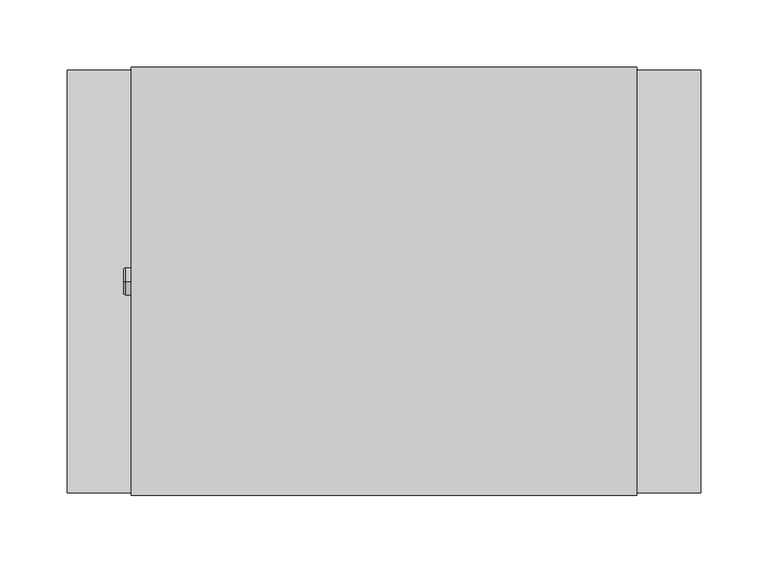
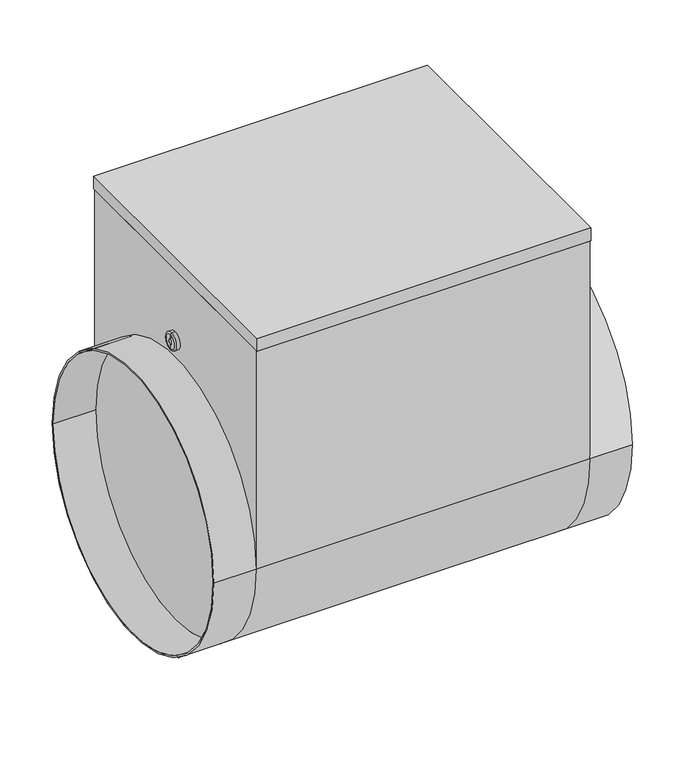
"""IFC4 building model written with IfcOpenShell, lengths in millimetres: proxy geometry, СВ_ВоздухонагревательЭлектрический_КанальныйКруглый_DN100-315_SKH-E : SKH-E-315/12."""

from ifc_helpers import new_model, si_unit, point, frame, origin, place, context, project, spatial, polyline, circle_curve, ellipse_curve, trimmed, outline, extrude, source, transform, mapped, element, save
from ifc_brep_helpers import plane_surface, cylinder_surface, revolved_surface, advanced_brep


def mechanical_equipment_5b81973e(model_context):
    return source(origin(), model_context, "Body", "SolidModel", [
        extrude(outline(polyline([(187.5, -159.0), (-187.5, -159.0), (-187.5, 159.0), (187.5, 159.0), (187.5, -159.0)])), frame((0.0, 0.0, 260.0), z_axis=(0.0, 0.0, 1.0), x_axis=(1.0, 0.0, 0.0)), (0.0, 0.0, 1.0), 15.0),
        advanced_brep(
        [(-235.0, -157.0, 0.0), (-235.0, 157.0, 0.0), (-235.0, -155.0, 0.0), (-235.0, 155.0, 0.0), (-187.5, 155.0, 0.0), (-187.5, -155.0, 0.0), (-187.5, 157.0, 0.0), (-187.5, -157.0, 0.0), (187.5, -155.0, 0.0), (187.5, 155.0, 0.0), (187.5, -157.0, 260.0), (187.5, -157.0, 0.0), (187.5, 157.0, 0.0), (187.5, 157.0, 260.0), (-187.5, -157.0, 260.0), (-187.5, 157.0, 260.0), (235.0, -157.0, 0.0), (235.0, 157.0, 0.0), (235.0, -155.0, 0.0), (235.0, 155.0, 0.0)],
        [
            (0, 1, circle_curve(frame((-235.0, 0.0, 0.0), z_axis=(-1.0, 0.0, 0.0), x_axis=(0.0, 1.0, 0.0)), 157.0)),
            (1, 0, circle_curve(frame((-235.0, 0.0, 0.0), z_axis=(-1.0, 0.0, 0.0), x_axis=(0.0, 1.0, 0.0)), 157.0)),
            (2, 3, circle_curve(frame((-235.0, 0.0, 0.0), z_axis=(1.0, 0.0, 0.0), x_axis=(0.0, 1.0, 0.0)), 155.0)),
            (3, 2, circle_curve(frame((-235.0, 0.0, 0.0), z_axis=(1.0, 0.0, 0.0), x_axis=(0.0, 1.0, 0.0)), 155.0)),
            (3, 4),
            (4, 5, circle_curve(frame((-187.5, 0.0, 0.0), z_axis=(1.0, 0.0, 0.0), x_axis=(0.0, 1.0, 0.0)), 155.0)),
            (5, 2),
            (5, 4, circle_curve(frame((-187.5, 0.0, 0.0), z_axis=(1.0, 0.0, 0.0), x_axis=(0.0, 1.0, 0.0)), 155.0)),
            (1, 6),
            (6, 7, circle_curve(frame((-187.5, 0.0, 0.0), z_axis=(-1.0, 0.0, 0.0), x_axis=(0.0, 1.0, 0.0)), 157.0)),
            (7, 0),
            (7, 6, circle_curve(frame((-187.5, 0.0, 0.0), z_axis=(-1.0, 0.0, 0.0), x_axis=(0.0, 1.0, 0.0)), 157.0)),
            (8, 9, circle_curve(frame((187.5, 0.0, 0.0), z_axis=(1.0, 0.0, 0.0), x_axis=(0.0, 1.0, 0.0)), 155.0)),
            (9, 8, circle_curve(frame((187.5, 0.0, 0.0), z_axis=(1.0, 0.0, 0.0), x_axis=(0.0, 1.0, 0.0)), 155.0)),
            (10, 11),
            (11, 12, circle_curve(frame((187.5, 0.0, 0.0), z_axis=(-1.0, 0.0, 0.0), x_axis=(0.0, 1.0, 0.0)), 157.0)),
            (12, 13),
            (13, 10),
            (7, 14),
            (14, 15),
            (15, 6),
            (6, 12),
            (12, 11, circle_curve(frame((187.5, 0.0, 0.0), z_axis=(-1.0, 0.0, 0.0), x_axis=(0.0, 1.0, 0.0)), 157.0)),
            (11, 7),
            (16, 17, circle_curve(frame((235.0, 0.0, 0.0), z_axis=(1.0, 0.0, 0.0), x_axis=(0.0, 1.0, 0.0)), 157.0)),
            (17, 16, circle_curve(frame((235.0, 0.0, 0.0), z_axis=(1.0, 0.0, 0.0), x_axis=(0.0, 1.0, 0.0)), 157.0)),
            (18, 19, circle_curve(frame((235.0, 0.0, 0.0), z_axis=(-1.0, 0.0, 0.0), x_axis=(0.0, 1.0, 0.0)), 155.0)),
            (19, 18, circle_curve(frame((235.0, 0.0, 0.0), z_axis=(-1.0, 0.0, 0.0), x_axis=(0.0, 1.0, 0.0)), 155.0)),
            (18, 8),
            (9, 19),
            (16, 11),
            (12, 17),
            (10, 14),
            (15, 13),
        ],
        [
            plane_surface(frame((-235.0, 155.0, 0.0), z_axis=(-1.0, 0.0, 0.0), x_axis=(0.0, 0.0, 1.0))),
            revolved_surface(polyline([(-235.0, 155.0, 0.0), (-187.5, 155.0, 0.0)]), (-235.0, 0.0, 0.0), (-1.0, 0.0, 0.0)),
            cylinder_surface(frame((0.0, 0.0, 0.0), z_axis=(1.0, 0.0, 0.0), x_axis=(0.0, 1.0, 0.0)), 157.0),
            plane_surface(frame((187.5, 157.0, 0.0), z_axis=(1.0, 0.0, 0.0), x_axis=(0.0, -1.0, 0.0))),
            plane_surface(frame((-187.5, 157.0, 0.0), z_axis=(-1.0, 0.0, 0.0), x_axis=(0.0, 1.0, 0.0))),
            cylinder_surface(frame((-187.5, 0.0, 0.0), z_axis=(1.0, 0.0, 0.0), x_axis=(0.0, 1.0, 0.0)), 157.0),
            plane_surface(frame((235.0, 155.0, 0.0), z_axis=(1.0, 0.0, 0.0), x_axis=(0.0, 0.0, -1.0))),
            revolved_surface(polyline([(187.5, 155.0, 0.0), (235.0, 155.0, 0.0)]), (187.5, 0.0, 0.0), (-1.0, 0.0, 0.0)),
            plane_surface(frame((-187.5, -157.0, 260.0), z_axis=(0.0, -1.0, 0.0), x_axis=(-1.0, 0.0, 0.0))),
            plane_surface(frame((-187.5, 157.0, 260.0), z_axis=(0.0, 1.0, 0.0), x_axis=(1.0, 0.0, 0.0))),
            plane_surface(frame((187.5, -157.0, 260.0), z_axis=(0.0, 0.0, 1.0), x_axis=(0.0, 1.0, 0.0))),
        ],
        [
            (0, [[1, 2], [3, 4]]),
            (1, [[-4, 5, 6, 7]]),
            (1, [[-3, -7, 8, -5]]),
            (2, [[-2, 9, 10, 11]]),
            (2, [[-1, -11, 12, -9]]),
            (3, [[13, 14]]),
            (3, [[15, 16, 17, 18]]),
            (4, [[-8, -6]]),
            (4, [[19, 20, 21, -12]]),
            (5, [[-10, 22, 23, 24]]),
            (6, [[25, 26], [27, 28]]),
            (7, [[-27, 29, -14, 30]]),
            (7, [[-28, -30, -13, -29]]),
            (2, [[-25, 31, -23, 32]]),
            (2, [[-26, -32, -16, -31]]),
            (8, [[33, -19, -24, -15]]),
            (9, [[-17, -22, -21, 34]]),
            (10, [[-33, -18, -34, -20]]),
        ],
    ),
        advanced_brep(
        [(-191.7840134, 0.0, 167.0), (-191.7840134, 0.0, 187.0), (-187.5, 0.0, 187.0), (-187.5, 0.0, 167.0), (-193.2459771, 0.0, 168.4619637), (-193.2459771, 0.0, 185.5380363), (-193.2459771, 0.0, 173.8948071), (-193.2459771, 0.0, 180.1051929), (-190.9138357, 0.0, 173.8948071), (-190.9138357, 0.0, 180.1051929), (-190.9138357, 0.0, 177.0), (-187.5, 0.0, 177.0)],
        [
            (0, 1, circle_curve(frame((-191.7840134, 0.0, 177.0), z_axis=(1.0, 0.0, 0.0), x_axis=(0.0, 0.0, 1.0)), 10.0)),
            (1, 2),
            (2, 3, circle_curve(frame((-187.5, 0.0, 177.0), z_axis=(-1.0, 0.0, 0.0), x_axis=(0.0, 0.0, 1.0)), 10.0)),
            (3, 0),
            (1, 0, circle_curve(frame((-191.7840134, 0.0, 177.0), z_axis=(1.0, 0.0, 0.0), x_axis=(0.0, 0.0, 1.0)), 10.0)),
            (3, 2, circle_curve(frame((-187.5, 0.0, 177.0), z_axis=(-1.0, 0.0, 0.0), x_axis=(0.0, 0.0, 1.0)), 10.0)),
            (4, 5, circle_curve(frame((-193.2459771, 0.0, 177.0), z_axis=(1.0, 0.0, 0.0), x_axis=(0.0, 0.0, 1.0)), 8.5380363)),
            (5, 1, circle_curve(frame((-191.7840134, 0.0, 185.5380363), z_axis=(0.0, 1.0, 0.0), x_axis=(1.0, 0.0, 0.0)), 1.4619637)),
            (0, 4, circle_curve(frame((-191.7840134, 0.0, 168.4619637), z_axis=(0.0, 1.0, 0.0), x_axis=(1.0, 0.0, 0.0)), 1.4619637)),
            (5, 4, circle_curve(frame((-193.2459771, 0.0, 177.0), z_axis=(1.0, 0.0, 0.0), x_axis=(0.0, 0.0, 1.0)), 8.5380363)),
            (6, 7, circle_curve(frame((-193.2459771, 0.0, 177.0), z_axis=(1.0, 0.0, 0.0), x_axis=(0.0, 0.0, 1.0)), 3.1051929)),
            (7, 5),
            (4, 6),
            (7, 6, circle_curve(frame((-193.2459771, 0.0, 177.0), z_axis=(1.0, 0.0, 0.0), x_axis=(0.0, 0.0, 1.0)), 3.1051929)),
            (8, 9, circle_curve(frame((-190.9138357, 0.0, 177.0), z_axis=(1.0, 0.0, 0.0), x_axis=(0.0, 0.0, 1.0)), 3.1051929)),
            (9, 7),
            (6, 8),
            (9, 8, circle_curve(frame((-190.9138357, 0.0, 177.0), z_axis=(1.0, 0.0, 0.0), x_axis=(0.0, 0.0, 1.0)), 3.1051929)),
            (10, 9),
            (8, 10),
            (2, 11),
            (11, 3),
        ],
        [
            cylinder_surface(frame((-223.1635229, 0.0, 177.0), z_axis=(-1.0, 0.0, 0.0), x_axis=(0.0, 0.0, 1.0)), 10.0),
            revolved_surface(trimmed(ellipse_curve(frame((-191.7840134, 0.0, 185.5380363), z_axis=(0.0, -1.0, 0.0), x_axis=(1.0, 0.0, 0.0)), 1.4619637, 1.4619637), [point((-191.7840134, 0.0, 187.0))], [point((-193.2459771, 0.0, 185.5380363))], True, "CARTESIAN"), (-223.1635229, 0.0, 177.0), (-1.0, 0.0, 0.0)),
            plane_surface(frame((-193.2459771, 0.0, 177.0), z_axis=(-1.0, 0.0, 0.0), x_axis=(0.0, 0.0, 1.0))),
            revolved_surface(polyline([(-193.2459771, 0.0, 180.1051929), (-190.9138357, 0.0, 180.1051929)]), (-223.1635229, 0.0, 177.0), (-1.0, 0.0, 0.0)),
            plane_surface(frame((-190.9138357, 0.0, 177.0), z_axis=(-1.0, 0.0, 0.0), x_axis=(0.0, 0.0, 1.0))),
            plane_surface(frame((-187.5, 0.0, 177.0), z_axis=(1.0, 0.0, 0.0), x_axis=(0.0, 0.0, 1.0))),
        ],
        [
            (0, [[1, 2, 3, 4]]),
            (0, [[5, -4, 6, -2]]),
            (1, [[7, 8, -1, 9]]),
            (1, [[10, -9, -5, -8]]),
            (2, [[11, 12, -7, 13]]),
            (2, [[14, -13, -10, -12]]),
            (3, [[15, 16, -11, 17]]),
            (3, [[18, -17, -14, -16]]),
            (4, [[19, -15, 20]]),
            (4, [[-20, -18, -19]]),
            (5, [[-3, 21, 22]]),
            (5, [[-6, -22, -21]]),
        ],
    ),
    ])


if __name__ == "__main__":
    model = new_model("IFC4")
    model_context = context("Model", 3, world=origin())
    ifc_project = project(units=[si_unit("LENGTHUNIT", "METRE", prefix="MILLI")], contexts=[model_context])
    site = spatial("IfcSite", under=ifc_project)
    building = spatial("IfcBuilding", under=site)
    placement = place(None, origin())
    mechanical_equipment_shape = mechanical_equipment_5b81973e(model_context)
    element("IfcBuildingElementProxy", 1, Name="СВ_ВоздухонагревательЭлектрический_КанальныйКруглый_DN100-315_SKH-E : SKH-E-315/12", ObjectType="СВ_ВоздухонагревательЭлектрический_КанальныйКруглый_DN100-315_SKH-E : SKH-E-315/12", at=placement, inside=building, context=model_context, shape_type="MappedRepresentation", body=[
        mapped(mechanical_equipment_shape, transform((0.0, 0.0, 0.0), x_axis=(1.0, 0.0, 0.0), y_axis=(0.0, 1.0, 0.0), z_axis=(0.0, 0.0, 1.0))),
    ])
    save(model, "model.ifc")
